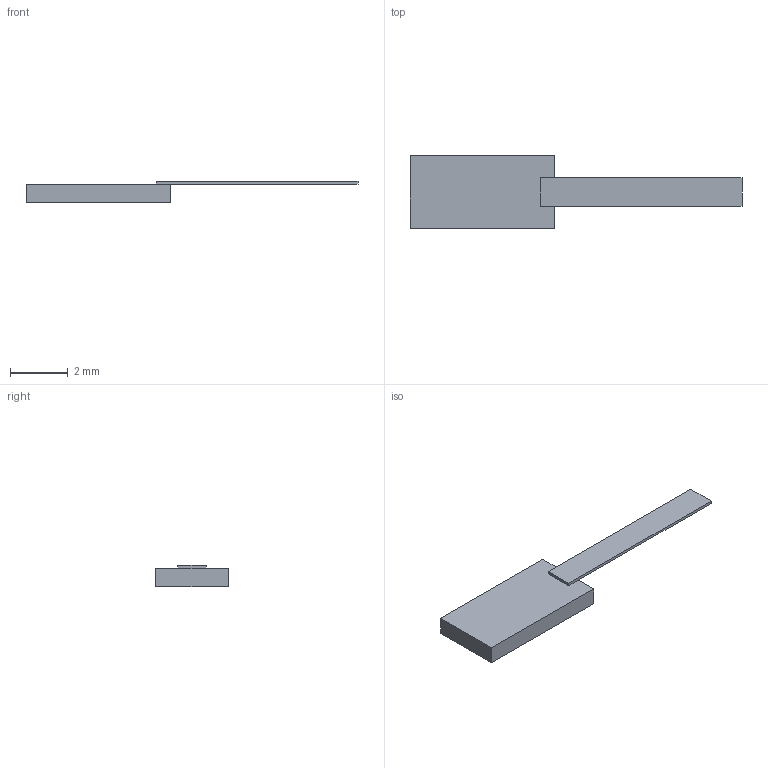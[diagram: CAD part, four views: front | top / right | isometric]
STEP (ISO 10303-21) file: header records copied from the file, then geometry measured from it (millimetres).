
FILE_DESCRIPTION(('STEP AP203'), '1');
FILE_NAME('P1-170-20-05', '', ('UNSPECIFIED'), ('UNSPECIFIED'), 'ASCON STEP Converter 1.6', 'ASCON Math Kernel', '');
FILE_SCHEMA(('CONFIG_CONTROL_DESIGN'));
Length unit declared in the file: millimetre
Bounding box: 11.5 x 2.5 x 0.73 mm (x, y, z)
Volume: 8.6 mm3; surface area: 49.1 mm2
Topology: 1 solids, 1 shells, 12 faces, 28 edges, 18 vertices
Faces by surface type: plane 12
Entity records: 476 total; most frequent: CARTESIAN_POINT 59, ORIENTED_EDGE 56, DIRECTION 54, EDGE_CURVE 28, LINE 28, VECTOR 28, VERTEX_POINT 18, AXIS2_PLACEMENT_3D 13
